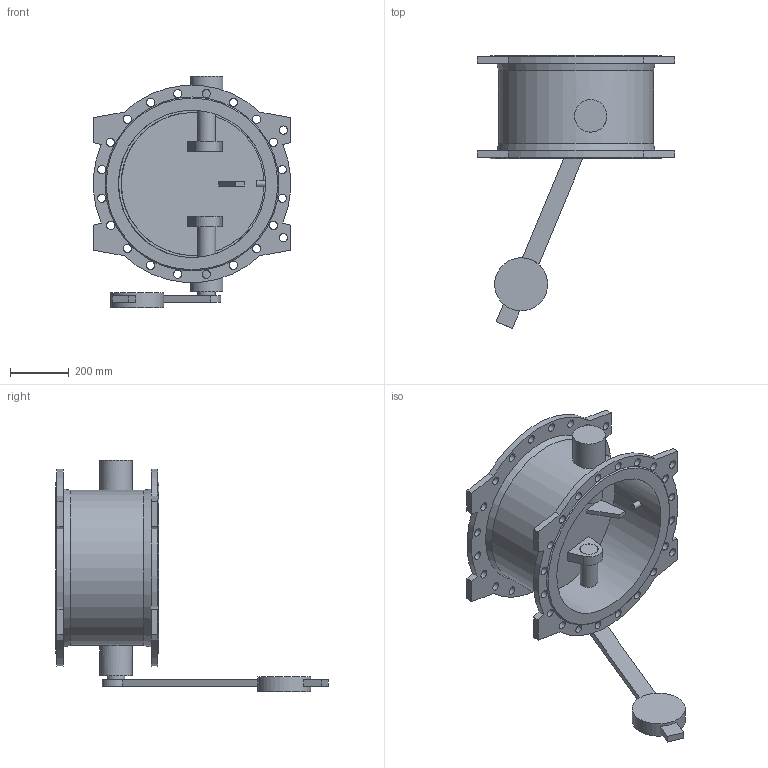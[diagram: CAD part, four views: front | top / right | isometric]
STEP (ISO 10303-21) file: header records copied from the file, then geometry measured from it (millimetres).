
FILE_DESCRIPTION(('STEP AP203'), '1');
FILE_NAME('Êëàïàí 015F.PV DN500 PN10 ñ ïðîòèâîâåñîì', '', ('UNSPECIFIED'), ('UNSPECIFIED'), 'ASCON STEP Converter 1.6', 'ASCON Math Kernel', '');
FILE_SCHEMA(('CONFIG_CONTROL_DESIGN'));
Length unit declared in the file: millimetre
Bounding box: 670 x 925 x 785 mm (x, y, z)
Volume: 22054048.6 mm3; surface area: 2643755.5 mm2
Topology: 1 solids, 1 shells, 136 faces, 348 edges, 231 vertices
Faces by surface type: cylinder 66, plane 63, cone 4, extrusion 2, bspline 1
Full cylindrical faces by diameter (mm): 20 x1, 28 x44, 60 x3, 62 x2, 110 x2, 180 x1, 500 x1, 526 x1
Entity records: 5988 total; most frequent: CARTESIAN_POINT 1513, DIRECTION 674, ORIENTED_EDGE 568, EDGE_LOOP 310, EDGE_CURVE 284, AXIS2_PLACEMENT_3D 271, VERTEX_POINT 230, FACE_BOUND 189
